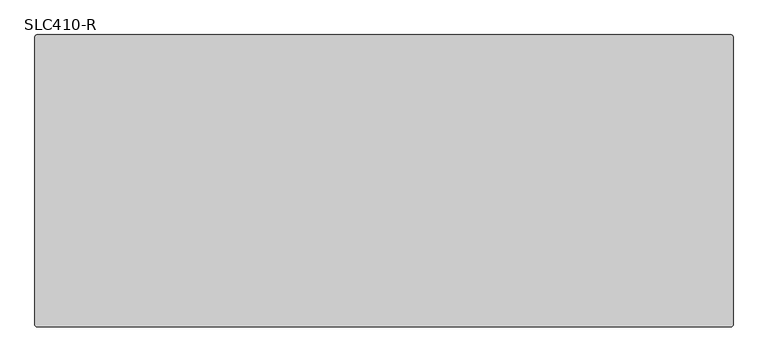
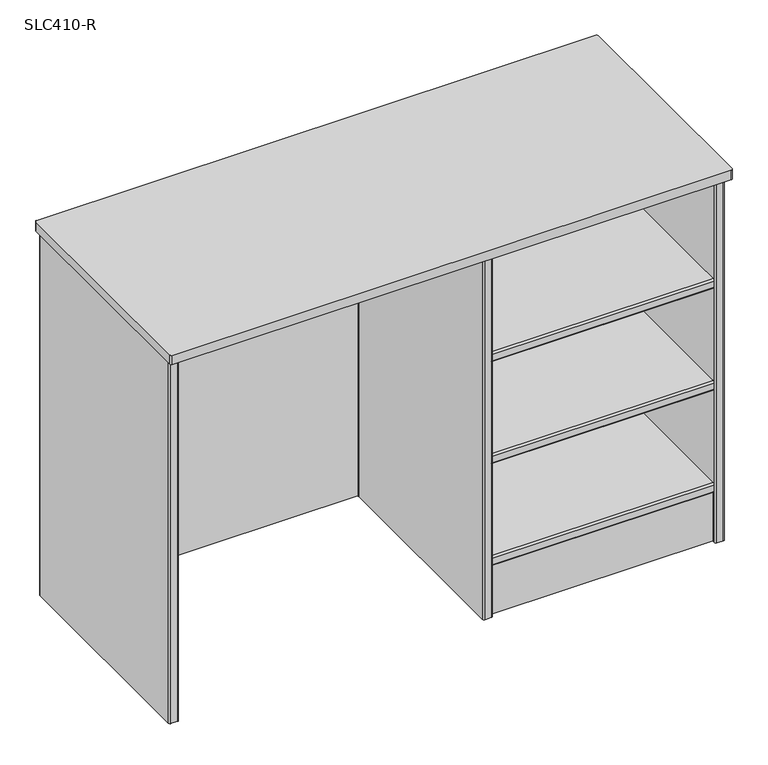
"""IFC4 building model written with IfcOpenShell, lengths in millimetres: furniture geometry, Stance_HC-Lotus-Desk-Shelves_Right : SLC410-R."""

from ifc_helpers import new_model, si_unit, point, frame, frame_2d, origin, origin_with_axes, place, context, project, spatial, polyline, circle_curve, trimmed, segment, composite_curve, outline, extrude, source, transform, mapped, element, save


def slc410_r_ae9c953f(model_context):
    return source(origin(), model_context, "Body", "SweptSolid", [
        extrude(outline(composite_curve([segment(polyline([(-434.1812621, 330.200003), (-25.4000008, 330.200003), (-25.4000008, 311.150003), (-434.1812621, 311.150003)]), True, "CONTINUOUS"), segment(trimmed(circle_curve(frame_2d((-434.1812621, 314.325003)), 3.175), [point((-434.1812621, 311.150003))], [point((-437.3562621, 314.325003))], False, "CARTESIAN"), True, "CONTINUOUS"), segment(polyline([(-437.3562621, 314.325003), (-437.3562621, 327.025003)]), True, "CONTINUOUS"), segment(trimmed(circle_curve(frame_2d((-434.1812621, 327.025003)), 3.175), [point((-437.3562621, 327.025003))], [point((-434.1812621, 330.200003))], False, "CARTESIAN"), True, "CONTINUOUS")], self_intersect=False)), frame((635.0000008, 0.0, 0.0), z_axis=(1.0, 0.0, 0.0), x_axis=(0.0, 1.0, 0.0)), (0.0, 0.0, 1.0), 431.7999992),
        extrude(outline(composite_curve([segment(polyline([(-434.1812621, 539.750003), (-25.4000008, 539.750003), (-25.4000008, 520.700003), (-434.1812621, 520.700003)]), True, "CONTINUOUS"), segment(trimmed(circle_curve(frame_2d((-434.1812621, 523.875003)), 3.175), [point((-434.1812621, 520.700003))], [point((-437.3562621, 523.875003))], False, "CARTESIAN"), True, "CONTINUOUS"), segment(polyline([(-437.3562621, 523.875003), (-437.3562621, 536.575003)]), True, "CONTINUOUS"), segment(trimmed(circle_curve(frame_2d((-434.1812621, 536.575003)), 3.175), [point((-437.3562621, 536.575003))], [point((-434.1812621, 539.750003))], False, "CARTESIAN"), True, "CONTINUOUS")], self_intersect=False)), frame((635.0000008, 0.0, 0.0), z_axis=(1.0, 0.0, 0.0), x_axis=(0.0, 1.0, 0.0)), (0.0, 0.0, 1.0), 431.7999992),
        extrude(outline(composite_curve([segment(polyline([(-434.1812621, 120.650003), (-25.4000008, 120.650003), (-25.4000008, 101.600003), (-434.1812621, 101.600003)]), True, "CONTINUOUS"), segment(trimmed(circle_curve(frame_2d((-434.1812621, 104.775003)), 3.175), [point((-434.1812621, 101.600003))], [point((-437.3562621, 104.775003))], False, "CARTESIAN"), True, "CONTINUOUS"), segment(polyline([(-437.3562621, 104.775003), (-437.3562621, 117.475003)]), True, "CONTINUOUS"), segment(trimmed(circle_curve(frame_2d((-434.1812621, 117.475003)), 3.175), [point((-437.3562621, 117.475003))], [point((-434.1812621, 120.650003))], False, "CARTESIAN"), True, "CONTINUOUS")], self_intersect=False)), frame((635.0000008, 0.0, 0.0), z_axis=(1.0, 0.0, 0.0), x_axis=(0.0, 1.0, 0.0)), (0.0, 0.0, 1.0), 431.7999992),
        extrude(outline(composite_curve([segment(trimmed(circle_curve(frame_2d((22.2250008, -6.3500001)), 3.175), [point((22.2250008, -3.1750001))], [point((25.4000008, -6.3500001))], False, "CARTESIAN"), True, "CONTINUOUS"), segment(polyline([(25.4000008, -6.3500001), (25.4000008, -438.1499879)]), True, "CONTINUOUS"), segment(trimmed(circle_curve(frame_2d((22.2250008, -438.1499879)), 3.175), [point((25.4000008, -438.1499879))], [point((22.2250008, -441.3249879))], False, "CARTESIAN"), True, "CONTINUOUS"), segment(polyline([(22.2250008, -441.3249879), (9.5250002, -441.3249879)]), True, "CONTINUOUS"), segment(trimmed(circle_curve(frame_2d((9.5250002, -438.1499879)), 3.175), [point((9.5250002, -441.3249879))], [point((6.3500002, -438.1499879))], False, "CARTESIAN"), True, "CONTINUOUS"), segment(polyline([(6.3500002, -438.1499879), (6.3500002, -6.3500001)]), True, "CONTINUOUS"), segment(trimmed(circle_curve(frame_2d((9.5250002, -6.3500001)), 3.175), [point((6.3500002, -6.3500001))], [point((9.5250002, -3.1750001))], False, "CARTESIAN"), True, "CONTINUOUS"), segment(polyline([(9.5250002, -3.1750001), (22.2250008, -3.1750001)]), True, "CONTINUOUS")], self_intersect=False)), origin_with_axes(), (0.0, 0.0, 1.0), 749.3000121),
        extrude(outline(composite_curve([segment(polyline([(1069.975, -3.1750001), (1082.6750006, -3.1750001)]), True, "CONTINUOUS"), segment(trimmed(circle_curve(frame_2d((1082.6750006, -6.3500001)), 3.175), [point((1082.6750006, -3.1750001))], [point((1085.8500006, -6.3500001))], False, "CARTESIAN"), True, "CONTINUOUS"), segment(polyline([(1085.8500006, -6.3500001), (1085.8500006, -438.1499879)]), True, "CONTINUOUS"), segment(trimmed(circle_curve(frame_2d((1082.6750006, -438.1499879)), 3.175), [point((1085.8500006, -438.1499879))], [point((1082.6750006, -441.3249879))], False, "CARTESIAN"), True, "CONTINUOUS"), segment(polyline([(1082.6750006, -441.3249879), (1069.975, -441.3249879)]), True, "CONTINUOUS"), segment(trimmed(circle_curve(frame_2d((1069.975, -438.1499879)), 3.175), [point((1069.975, -441.3249879))], [point((1066.8, -438.1499879))], False, "CARTESIAN"), True, "CONTINUOUS"), segment(polyline([(1066.8, -438.1499879), (1066.8, -6.3500001)]), True, "CONTINUOUS"), segment(trimmed(circle_curve(frame_2d((1069.975, -6.3500001)), 3.175), [point((1066.8, -6.3500001))], [point((1069.975, -3.1750001))], False, "CARTESIAN"), True, "CONTINUOUS")], self_intersect=False)), origin_with_axes(), (0.0, 0.0, 1.0), 749.3000121),
        extrude(outline(composite_curve([segment(trimmed(circle_curve(frame_2d((631.8250008, -22.225)), 3.175), [point((631.8250008, -19.05))], [point((635.0000008, -22.225))], False, "CARTESIAN"), True, "CONTINUOUS"), segment(polyline([(635.0000008, -22.225), (635.0000008, -438.1499879)]), True, "CONTINUOUS"), segment(trimmed(circle_curve(frame_2d((631.8250008, -438.1499879)), 3.175), [point((635.0000008, -438.1499879))], [point((631.8250008, -441.3249879))], False, "CARTESIAN"), True, "CONTINUOUS"), segment(polyline([(631.8250008, -441.3249879), (619.1250002, -441.3249879)]), True, "CONTINUOUS"), segment(trimmed(circle_curve(frame_2d((619.1250002, -438.1499879)), 3.175), [point((619.1250002, -441.3249879))], [point((615.9500002, -438.1499879))], False, "CARTESIAN"), True, "CONTINUOUS"), segment(polyline([(615.9500002, -438.1499879), (615.9500002, -22.225)]), True, "CONTINUOUS"), segment(trimmed(circle_curve(frame_2d((619.1250002, -22.225)), 3.175), [point((615.9500002, -22.225))], [point((619.1250002, -19.05))], False, "CARTESIAN"), True, "CONTINUOUS"), segment(polyline([(619.1250002, -19.05), (631.8250008, -19.05)]), True, "CONTINUOUS")], self_intersect=False)), origin_with_axes(), (0.0, 0.0, 1.0), 749.3000121),
        extrude(outline(composite_curve([segment(trimmed(circle_curve(frame_2d((1089.025, -3.175)), 3.175), [point((1089.025, 0.0))], [point((1092.2, -3.175))], False, "CARTESIAN"), True, "CONTINUOUS"), segment(polyline([(1092.2, -3.175), (1092.2, -454.025)]), True, "CONTINUOUS"), segment(trimmed(circle_curve(frame_2d((1089.025, -454.025)), 3.175), [point((1092.2, -454.025))], [point((1089.025, -457.2))], False, "CARTESIAN"), True, "CONTINUOUS"), segment(polyline([(1089.025, -457.2), (3.175, -457.2)]), True, "CONTINUOUS"), segment(trimmed(circle_curve(frame_2d((3.175, -454.025)), 3.175), [point((3.175, -457.2))], [point((0.0, -454.025))], False, "CARTESIAN"), True, "CONTINUOUS"), segment(polyline([(0.0, -454.025), (0.0, -3.175)]), True, "CONTINUOUS"), segment(trimmed(circle_curve(frame_2d((3.175, -3.175)), 3.175), [point((0.0, -3.175))], [point((3.175, 0.0))], False, "CARTESIAN"), True, "CONTINUOUS"), segment(polyline([(3.175, 0.0), (1089.025, 0.0)]), True, "CONTINUOUS")], self_intersect=False)), frame((0.0, 0.0, 749.3000121), z_axis=(0.0, 0.0, 1.0), x_axis=(1.0, 0.0, 0.0)), (0.0, 0.0, 1.0), 19.0499879),
        extrude(outline(polyline([(635.0000008, -414.3375), (1066.7999881, -414.3375), (1066.7999881, -433.3875), (635.0000008, -433.3875), (635.0000008, -414.3375)])), origin_with_axes(), (0.0, 0.0, 1.0), 101.600003),
        extrude(outline(polyline([(1066.8, -19.05), (25.4000008, -19.05), (25.4000008, 0.0), (1066.8, 0.0), (1066.8, -19.05)])), origin_with_axes(), (0.0, 0.0, 1.0), 749.3000121),
    ])


if __name__ == "__main__":
    model = new_model("IFC4")
    model_context = context("Model", 3, world=origin())
    ifc_project = project(units=[si_unit("LENGTHUNIT", "METRE", prefix="MILLI")], contexts=[model_context])
    site = spatial("IfcSite", under=ifc_project)
    building = spatial("IfcBuilding", under=site)
    placement = place(None, origin())
    slc410_r_shape = slc410_r_ae9c953f(model_context)
    element("IfcFurniture", 1, ObjectType="Stance_HC-Lotus-Desk-Shelves_Right : SLC410-R", at=placement, inside=building, context=model_context, shape_type="MappedRepresentation", body=[
        mapped(slc410_r_shape, transform((0.0, 0.0, 0.0), x_axis=(1.0, 0.0, 0.0), y_axis=(0.0, 1.0, 0.0), z_axis=(0.0, 0.0, 1.0))),
    ])
    save(model, "model.ifc")
